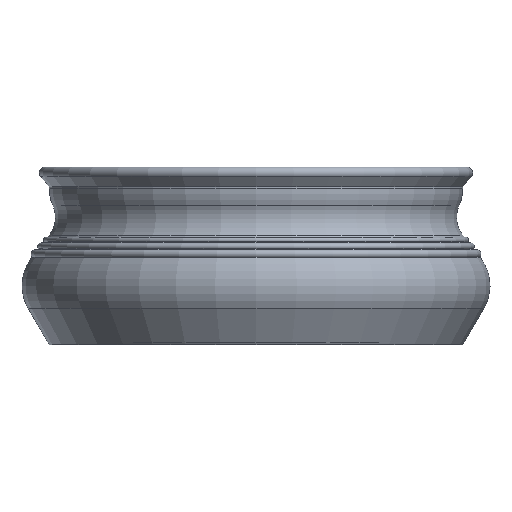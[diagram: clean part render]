
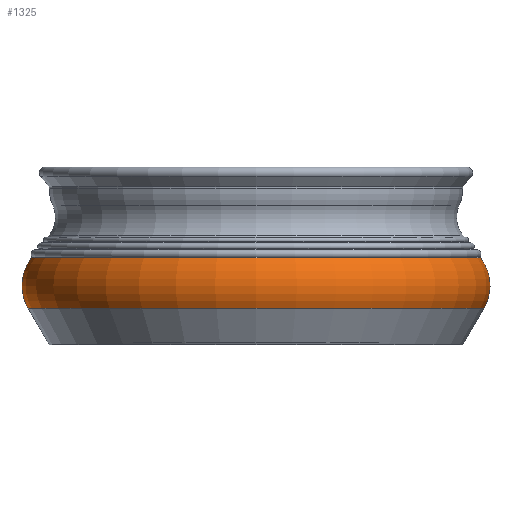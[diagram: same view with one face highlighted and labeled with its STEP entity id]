
A CAD part, front view. The second image highlights one B-rep face of the part: STEP entity #1325.
In plain terms, the highlighted toroidal (fillet/blend) face has major radius 159.261 mm and minor radius 38.099 mm.
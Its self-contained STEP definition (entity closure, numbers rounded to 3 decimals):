
#22=TOROIDAL_SURFACE('',#1505,159.261,38.099);
#166=FACE_OUTER_BOUND('',#284,.T.);
#284=EDGE_LOOP('',(#1208,#1209,#1210,#1211));
#526=CIRCLE('',#1467,192.243);
#549=CIRCLE('',#1506,189.249);
#550=CIRCLE('',#1507,38.099);
#653=VERTEX_POINT('',#2240);
#669=VERTEX_POINT('',#2303);
#818=EDGE_CURVE('',#653,#653,#526,.T.);
#849=EDGE_CURVE('',#669,#669,#549,.T.);
#850=EDGE_CURVE('',#669,#653,#550,.T.);
#1208=ORIENTED_EDGE('',*,*,#849,.F.);
#1209=ORIENTED_EDGE('',*,*,#850,.T.);
#1210=ORIENTED_EDGE('',*,*,#818,.T.);
#1211=ORIENTED_EDGE('',*,*,#850,.F.);
#1325=ADVANCED_FACE('',(#166),#22,.T.);
#1467=AXIS2_PLACEMENT_3D('',#2241,#1837,#1838);
#1505=AXIS2_PLACEMENT_3D('',#2302,#1921,#1922);
#1506=AXIS2_PLACEMENT_3D('',#2304,#1923,#1924);
#1507=AXIS2_PLACEMENT_3D('',#2305,#1925,#1926);
#1837=DIRECTION('center_axis',(0.,0.,1.));
#1838=DIRECTION('ref_axis',(1.,0.,0.));
#1921=DIRECTION('center_axis',(0.,0.,1.));
#1922=DIRECTION('ref_axis',(1.,0.,0.));
#1923=DIRECTION('center_axis',(0.,0.,1.));
#1924=DIRECTION('ref_axis',(1.,0.,0.));
#1925=DIRECTION('center_axis',(0.,-1.,0.));
#1926=DIRECTION('ref_axis',(-1.,0.,0.));
#2240=CARTESIAN_POINT('',(-192.243,0.,30.929));
#2241=CARTESIAN_POINT('Origin',(0.,0.,30.929));
#2302=CARTESIAN_POINT('Origin',(0.,0.,50.));
#2303=CARTESIAN_POINT('',(-189.249,0.,73.5));
#2304=CARTESIAN_POINT('Origin',(0.,0.,73.5));
#2305=CARTESIAN_POINT('Origin',(-159.261,0.,
50.));
